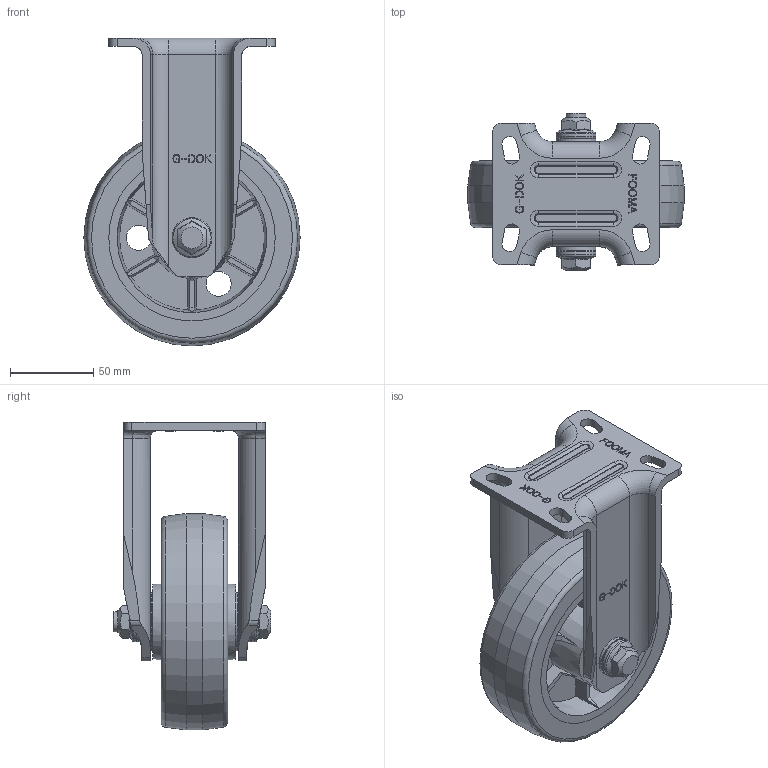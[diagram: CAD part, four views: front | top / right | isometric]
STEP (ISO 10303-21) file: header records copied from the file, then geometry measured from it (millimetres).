
FILE_DESCRIPTION((''),'2;1');
FILE_NAME('C:\Documents and Settings\Administrator\바탕 화면\3D STEP\PH-SERIES\PH-130\PH-130A-RF.stp','2010-12-27T14:45:33',('Administrator'),(''),'Autodesk Inventor 2009','Autodesk Inventor 2009','');
FILE_SCHEMA(('AUTOMOTIVE_DESIGN { 1 0 10303 214 1 1 1 1 }'));
Length unit declared in the file: millimetre
Products named in the file (1): PH-130A-RF
Bounding box: 130 x 94.8 x 185 mm (x, y, z)
Volume: 499914.9 mm3; surface area: 126558.3 mm2
Topology: 4 solids, 4 shells, 713 faces, 1955 edges, 1289 vertices
Faces by surface type: bspline 348, plane 245, cylinder 73, cone 35, torus 12
Full cylindrical faces by diameter (mm): 12 x1, 15 x3, 21.5 x1, 24 x4, 30 x1, 30.5 x2, 35 x2, 35.02 x2, 130 x1
Entity records: 25603 total; most frequent: CARTESIAN_POINT 9919, ORIENTED_EDGE 3818, DIRECTION 2234, EDGE_CURVE 1909, VERTEX_POINT 1277, VECTOR 828, LINE 828, EDGE_LOOP 808
